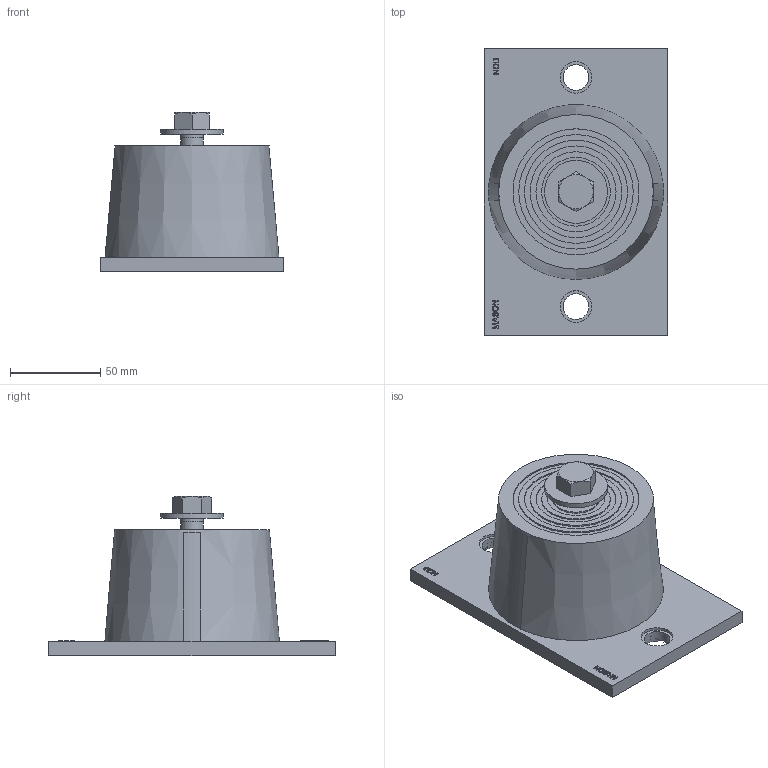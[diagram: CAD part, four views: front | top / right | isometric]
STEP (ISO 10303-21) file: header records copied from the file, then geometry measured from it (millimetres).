
FILE_DESCRIPTION((''),'2;1');
FILE_NAME('C:\2012_Work\Designs\ND\ND-D\A-9743-1 NDD MOUNT.stp','2013-09-11T11:06:04',('KShiels'),(''),'Autodesk Inventor 2012','Autodesk Inventor 2012','');
FILE_SCHEMA(('AUTOMOTIVE_DESIGN { 1 0 10303 214 1 1 1 1 }'));
Length unit declared in the file: inch
Products named in the file (6): A-9743-1 NDD MOUNT; A-9743-1 NDD RUBBER; A-9743-1 NDD TOP PLATE; ANSI B18.22.1 - 1_2 - wide - Type A-NDD; ANSI_ASME B18.2.1 - 1_2-13 UNC - 1(2)-NDD; A-9743-1 NDD BASE PLATE
Assembly tree (5 placements, depth 2):
  A-9743-1 NDD MOUNT
    A-9743-1 NDD RUBBER
    A-9743-1 NDD TOP PLATE
    ANSI B18.22.1 - 1_2 - wide - Type A-NDD
    ANSI_ASME B18.2.1 - 1_2-13 UNC - 1(2)-NDD
    A-9743-1 NDD BASE PLATE
Bounding box: 101.6 x 158.75 x 88.21 mm (x, y, z)
Volume: 526661.4 mm3; surface area: 105959.2 mm2
Topology: 5 solids, 5 shells, 349 faces, 888 edges, 589 vertices
Faces by surface type: plane 270, bspline 42, cylinder 23, cone 13, torus 1
Full cylindrical faces by diameter (mm): 10.592 x1, 12.7 x1, 14.275 x1, 14.288 x2, 15.478 x2, 17.463 x3, 19.05 x1, 25.4 x1, 31.75 x1, 34.925 x1, 38.1 x1, 41.275 x2, 44.45 x1, 50.8 x1, 57.15 x1, 63.5 x1, 69.85 x1, 76.2 x1
Entity records: 10812 total; most frequent: CARTESIAN_POINT 2559, ORIENTED_EDGE 1704, DIRECTION 1482, EDGE_CURVE 852, VECTOR 626, LINE 626, VERTEX_POINT 581, EDGE_LOOP 434
